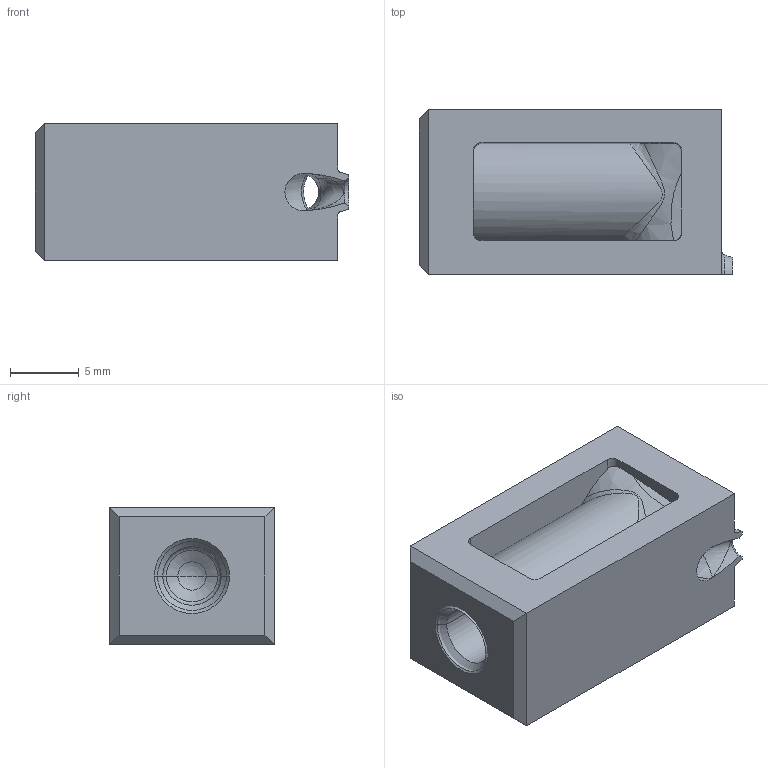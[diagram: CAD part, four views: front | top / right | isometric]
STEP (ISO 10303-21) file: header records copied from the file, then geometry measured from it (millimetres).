
FILE_DESCRIPTION((''),'2;1');
FILE_NAME('TGS12-16-S2','2004-03-24T',('tmeister'),(''),'PRO/ENGINEER BY PARAMETRIC TECHNOLOGY CORPORATION, 2002270','PRO/ENGINEER BY PARAMETRIC TECHNOLOGY CORPORATION, 2002270','');
FILE_SCHEMA(('CONFIG_CONTROL_DESIGN'));
Length unit declared in the file: millimetre
Products named in the file (1): TGS12-16-S2
Bounding box: 22.8 x 12 x 10 mm (x, y, z)
Volume: 1997.6 mm3; surface area: 1877.3 mm2
Topology: 1 solids, 2 shells, 65 faces, 235 edges, 172 vertices
Faces by surface type: plane 21, bspline 14, cone 14, cylinder 10, sphere 3, torus 3
Entity records: 4794 total; most frequent: CARTESIAN_POINT 3095, ORIENTED_EDGE 322, DIRECTION 281, EDGE_CURVE 163, VERTEX_POINT 103, B_SPLINE_CURVE_WITH_KNOTS 99, AXIS2_PLACEMENT_3D 97, VECTOR 87
